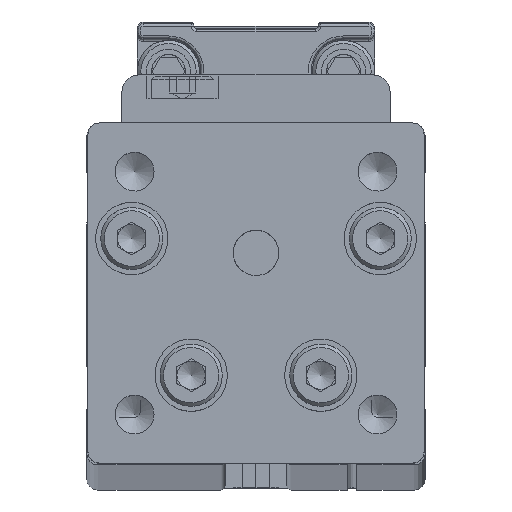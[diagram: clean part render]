
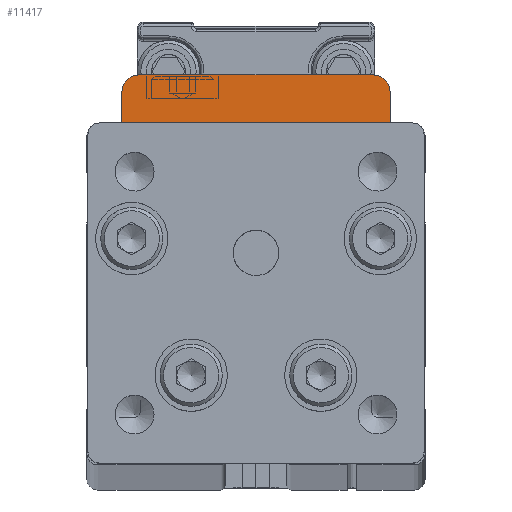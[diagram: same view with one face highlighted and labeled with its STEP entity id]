
A CAD part, top view. The second image highlights one B-rep face of the part: STEP entity #11417.
In plain terms, the highlighted planar face has unit normal (0, 0, 1).
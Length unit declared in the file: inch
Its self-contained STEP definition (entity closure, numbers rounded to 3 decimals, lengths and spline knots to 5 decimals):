
#355 = VECTOR ( 'NONE', #8176, 39.37008 ) ;
#461 = DIRECTION ( 'NONE',  ( 1., 0., 0. ) ) ;
#614 = EDGE_CURVE ( 'NONE', #20376, #17580, #6557, .T. ) ;
#1176 = VERTEX_POINT ( 'NONE', #7557 ) ;
#2039 = CARTESIAN_POINT ( 'NONE',  ( -0.46752, 0.45295, 0.54126 ) ) ;
#2111 = VECTOR ( 'NONE', #17564, 39.37008 ) ;
#2246 = ORIENTED_EDGE ( 'NONE', *, *, #12929, .T. ) ;
#2701 = VECTOR ( 'NONE', #10277, 39.37008 ) ;
#3067 = CIRCLE ( 'NONE', #5793, 0.05906 ) ;
#3231 = CARTESIAN_POINT ( 'NONE',  ( -0.46752, 0.45295, 0.54126 ) ) ;
#3462 = DIRECTION ( 'NONE',  ( 0., 0., 1. ) ) ;
#4126 = EDGE_CURVE ( 'NONE', #6368, #10933, #9830, .T. ) ;
#4144 = ORIENTED_EDGE ( 'NONE', *, *, #9657, .F. ) ;
#4840 = DIRECTION ( 'NONE',  ( 0., 1., 0. ) ) ;
#5113 = ORIENTED_EDGE ( 'NONE', *, *, #614, .T. ) ;
#5793 = AXIS2_PLACEMENT_3D ( 'NONE', #10866, #15448, #9276 ) ;
#6122 = ORIENTED_EDGE ( 'NONE', *, *, #15184, .F. ) ;
#6368 = VERTEX_POINT ( 'NONE', #16857 ) ;
#6476 = CARTESIAN_POINT ( 'NONE',  ( -0.46752, 0.62028, 0.54126 ) ) ;
#6557 = LINE ( 'NONE', #3231, #355 ) ;
#7557 = CARTESIAN_POINT ( 'NONE',  ( 0.46752, 0.56122, 0.54126 ) ) ;
#7892 = EDGE_LOOP ( 'NONE', ( #15016, #2246, #4144, #14928, #6122, #5113 ) ) ;
#8176 = DIRECTION ( 'NONE',  ( 1., 0., 0. ) ) ;
#9276 = DIRECTION ( 'NONE',  ( 1., 0., 0. ) ) ;
#9587 = LINE ( 'NONE', #6476, #2111 ) ;
#9657 = EDGE_CURVE ( 'NONE', #6368, #14520, #9587, .T. ) ;
#9830 = CIRCLE ( 'NONE', #11515, 0.05906 ) ;
#10044 = CARTESIAN_POINT ( 'NONE',  ( -0.46752, 0.56122, 0.54126 ) ) ;
#10277 = DIRECTION ( 'NONE',  ( 0., 1., 0. ) ) ;
#10340 = DIRECTION ( 'NONE',  ( 1., 0., 0. ) ) ;
#10866 = CARTESIAN_POINT ( 'NONE',  ( 0.40846, 0.56122, 0.54126 ) ) ;
#10933 = VERTEX_POINT ( 'NONE', #10044 ) ;
#11417 = ADVANCED_FACE ( 'NONE', ( #12024 ), #18128, .T. ) ;
#11515 = AXIS2_PLACEMENT_3D ( 'NONE', #16802, #3462, #461 ) ;
#11650 = CARTESIAN_POINT ( 'NONE',  ( -0.46752, 0.45295, 0.54126 ) ) ;
#11791 = VECTOR ( 'NONE', #4840, 39.37008 ) ;
#12024 = FACE_OUTER_BOUND ( 'NONE', #7892, .T. ) ;
#12538 = CARTESIAN_POINT ( 'NONE',  ( 0.40846, 0.62028, 0.54126 ) ) ;
#12929 = EDGE_CURVE ( 'NONE', #1176, #14520, #3067, .T. ) ;
#14453 = CARTESIAN_POINT ( 'NONE',  ( 0.46752, 0.45295, 0.54126 ) ) ;
#14520 = VERTEX_POINT ( 'NONE', #12538 ) ;
#14928 = ORIENTED_EDGE ( 'NONE', *, *, #4126, .T. ) ;
#15016 = ORIENTED_EDGE ( 'NONE', *, *, #17420, .T. ) ;
#15184 = EDGE_CURVE ( 'NONE', #20376, #10933, #19771, .T. ) ;
#15448 = DIRECTION ( 'NONE',  ( 0., 0., 1. ) ) ;
#16470 = CARTESIAN_POINT ( 'NONE',  ( 0.46752, 0.45295, 0.54126 ) ) ;
#16802 = CARTESIAN_POINT ( 'NONE',  ( -0.40846, 0.56122, 0.54126 ) ) ;
#16857 = CARTESIAN_POINT ( 'NONE',  ( -0.40846, 0.62028, 0.54126 ) ) ;
#17420 = EDGE_CURVE ( 'NONE', #17580, #1176, #19476, .T. ) ;
#17564 = DIRECTION ( 'NONE',  ( 1., 0., 0. ) ) ;
#17580 = VERTEX_POINT ( 'NONE', #16470 ) ;
#18128 = PLANE ( 'NONE',  #19703 ) ;
#18444 = DIRECTION ( 'NONE',  ( 0., 0., 1. ) ) ;
#18542 = CARTESIAN_POINT ( 'NONE',  ( -0.46752, 0.45295, 0.54126 ) ) ;
#19476 = LINE ( 'NONE', #14453, #11791 ) ;
#19703 = AXIS2_PLACEMENT_3D ( 'NONE', #18542, #18444, #10340 ) ;
#19771 = LINE ( 'NONE', #2039, #2701 ) ;
#20376 = VERTEX_POINT ( 'NONE', #11650 ) ;
